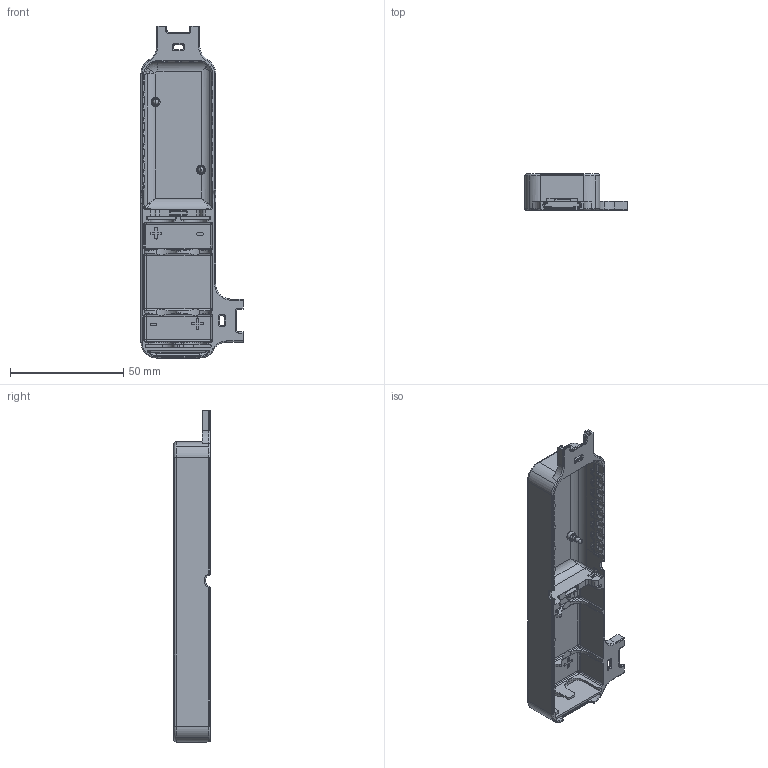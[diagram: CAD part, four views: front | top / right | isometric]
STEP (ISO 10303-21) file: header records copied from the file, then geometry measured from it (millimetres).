
FILE_DESCRIPTION (( 'STEP AP214' ), '1' );
FILE_NAME ('SENSOR15_MAIN.STEP', '2026-01-02T10:54:37', ( '' ), ( '' ), 'SwSTEP 2.0', 'SolidWorks 2021', '' );
FILE_SCHEMA (( 'AUTOMOTIVE_DESIGN' ));
Length unit declared in the file: millimetre
Products named in the file (1): SENSOR15_MAIN
Bounding box: 45.08 x 16 x 146.51 mm (x, y, z)
Volume: 13522.1 mm3; surface area: 21414.2 mm2
Topology: 1 solids, 3 shells, 1199 faces, 3301 edges, 2047 vertices
Faces by surface type: cylinder 590, plane 263, bspline 204, torus 97, sphere 33, cone 12
Entity records: 46856 total; most frequent: CARTESIAN_POINT 18289, ORIENTED_EDGE 6454, DIRECTION 5373, EDGE_CURVE 3227, VERTEX_POINT 2047, AXIS2_PLACEMENT_3D 1988, VECTOR 1397, LINE 1397
